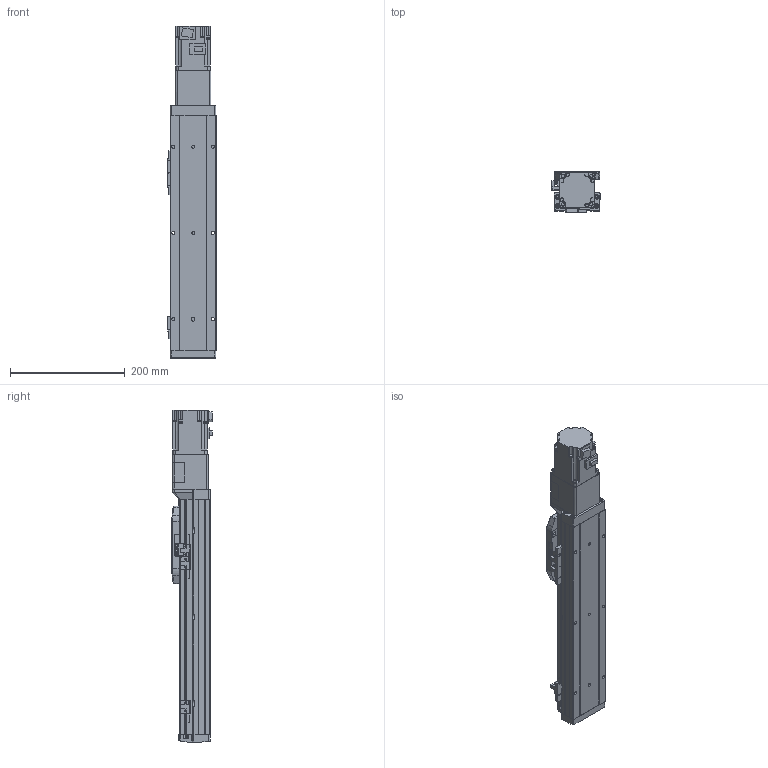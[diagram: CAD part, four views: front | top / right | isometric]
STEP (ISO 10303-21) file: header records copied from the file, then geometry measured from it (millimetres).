
FILE_DESCRIPTION (( 'STEP AP214' ), '1' );
FILE_NAME ('GSH8-250-BC-M20-1.step', '2025-01-07T06:03:20', ( '' ), ( '' ), 'SwSTEP 2.0', 'SolidWorks 2012', '' );
FILE_SCHEMA (( 'AUTOMOTIVE_DESIGN' ));
Length unit declared in the file: millimetre
Products named in the file (4): GSH8-BC-011-250-M20; GSH8-250-BC-M20-1; HG-KR23_200W_Motor; GSH8-GY-004
Assembly tree (3 placements, depth 2):
  GSH8-250-BC-M20-1
    GSH8-BC-011-250-M20
    GSH8-GY-004
    HG-KR23_200W_Motor
Bounding box: 84 x 71.3 x 577.6 mm (x, y, z)
Volume: 1382991.6 mm3; surface area: 334153.8 mm2
Topology: 3 solids, 7 shells, 1090 faces, 2873 edges, 1848 vertices
Faces by surface type: plane 634, cylinder 364, torus 38, cone 26, bspline 24, sphere 4
Entity records: 42879 total; most frequent: CARTESIAN_POINT 9711, DIRECTION 5813, ORIENTED_EDGE 5730, EDGE_CURVE 2865, AXIS2_PLACEMENT_3D 1946, LINE 1921, VECTOR 1921, VERTEX_POINT 1844
